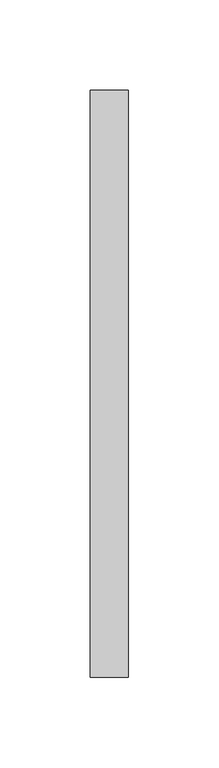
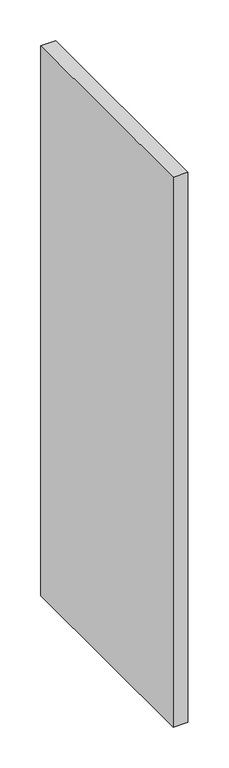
"""IFC4 building model written with IfcOpenShell, lengths in millimetres: duct fitting geometry, MEP_15.03 Injerto Conducte : Mínimo."""

import ifcopenshell
import ifcopenshell.guid

model = None  # the IFC model being written
_history = None  # IfcOwnerHistory: only IFC2X3 demands one
_inside = {}  # id of a spatial element -> (the spatial element, [elements in it])
_under = {}  # id of a project, library or spatial element -> (it, [spatial elements below it])
_declared = {}  # id of a project -> (the project, [libraries it declares])
_typed = {}  # id of a type object -> (the type object, [elements of that type])
_made_of = {}  # id of a material, layer set ... -> (it, [elements and type objects made of it])


def new_model(schema):
    """Start an empty IFC model of exactly this schema.

    Asked for "IFC4X3", IfcOpenShell would pick the latest addendum, in which some entities
    have other attributes; the version numbers below select the first issue.
    IFC2X3 requires an IfcOwnerHistory on every rooted entity: one is made here for all.
    """
    global model, _history
    if schema == "IFC4X3":
        model = ifcopenshell.file(schema_version=(4, 3, 0, 0))
    else:
        model = ifcopenshell.file(schema=schema)
    _inside.clear()
    _under.clear()
    _declared.clear()
    _typed.clear()
    _made_of.clear()
    _history = None
    if model.schema == "IFC2X3":
        org = make("IfcOrganization", Name="unknown")
        user = make(
            "IfcPersonAndOrganization",
            ThePerson=make("IfcPerson", FamilyName="unknown"),
            TheOrganization=org,
        )
        app = make(
            "IfcApplication",
            ApplicationDeveloper=org,
            Version="unknown",
            ApplicationFullName="unknown",
            ApplicationIdentifier="unknown",
        )
        _history = make(
            "IfcOwnerHistory",
            OwningUser=user,
            OwningApplication=app,
            ChangeAction="ADDED",
            CreationDate=0,
        )
    return model


def make(cls, **values):
    """One entity of the class cls with the attributes given. An attribute that is None is left unset."""
    return model.create_entity(
        cls, **{name: value for name, value in values.items() if value is not None}
    )


def rooted(cls, **values):
    """An entity with a GlobalId (a new one), such as an element, a storey or a relation."""
    return make(cls, GlobalId=ifcopenshell.guid.new(), OwnerHistory=_history, **values)


def si_unit(unit_type, name, prefix=None):
    """IfcSIUnit, for example si_unit("LENGTHUNIT", "METRE", prefix="MILLI")."""
    return make("IfcSIUnit", UnitType=unit_type, Prefix=prefix, Name=name)


def assignment(units):
    """IfcUnitAssignment: the units of a project."""
    return None if units is None else make("IfcUnitAssignment", Units=units)


def point(xyz):
    """IfcCartesianPoint."""
    return None if xyz is None else make("IfcCartesianPoint", Coordinates=xyz)


def direction(xyz):
    """IfcDirection."""
    return None if xyz is None else make("IfcDirection", DirectionRatios=xyz)


def frame(location, z_axis=None, x_axis=None):
    """IfcAxis2Placement3D, a coordinate frame: its origin and axes. An axis left out is left unset."""
    return make(
        "IfcAxis2Placement3D",
        Location=point(location),
        Axis=direction(z_axis),
        RefDirection=direction(x_axis),
    )


def origin():
    """The frame at (0, 0, 0) with its axes left unset."""
    return frame((0.0, 0.0, 0.0))


def place(relative_to, where):
    """IfcLocalPlacement: puts the frame where relative to a parent placement (None: the world)."""
    return make(
        "IfcLocalPlacement", PlacementRelTo=relative_to, RelativePlacement=where
    )


def context(
    kind, dimensions, precision=None, world=None, true_north=None, identifier=None
):
    """IfcGeometricRepresentationContext, for example the 3D "Model" context."""
    return make(
        "IfcGeometricRepresentationContext",
        ContextIdentifier=identifier,
        ContextType=kind,
        CoordinateSpaceDimension=dimensions,
        Precision=precision,
        WorldCoordinateSystem=world,
        TrueNorth=true_north,
    )


def project(units=None, contexts=None):
    """IfcProject with its units and contexts."""
    return rooted(
        "IfcProject",
        Name="project",
        RepresentationContexts=contexts,
        UnitsInContext=assignment(units),
    )


def spatial(cls, under=None, at=None, **own):
    """A site, building, storey or space (cls), placed at a placement, below another one or the project."""
    s = rooted(cls, ObjectPlacement=at, **own)
    if under is not None:
        _under.setdefault(under.id(), (under, []))[1].append(s)
    return s


def polyline(points):
    """IfcPolyline through the points."""
    return make("IfcPolyline", Points=[point(p) for p in points])


def outline(outer, holes=None, kind="AREA"):
    """IfcArbitraryClosedProfileDef: a profile drawn as a closed curve; with holes, ...WithVoids."""
    if holes is None:
        return make("IfcArbitraryClosedProfileDef", ProfileType=kind, OuterCurve=outer)
    return make(
        "IfcArbitraryProfileDefWithVoids",
        ProfileType=kind,
        OuterCurve=outer,
        InnerCurves=holes,
    )


def extrude(swept, where, along, depth):
    """IfcExtrudedAreaSolid: the profile swept, set in the frame where, extruded along a direction by depth."""
    return make(
        "IfcExtrudedAreaSolid",
        SweptArea=swept,
        Position=where,
        ExtrudedDirection=direction(along),
        Depth=depth,
    )


def shape(context_of_items, identifier, shape_type, items):
    """IfcShapeRepresentation: the items that make up one representation, for example the "Body"."""
    return make(
        "IfcShapeRepresentation",
        ContextOfItems=context_of_items,
        RepresentationIdentifier=identifier,
        RepresentationType=shape_type,
        Items=items,
    )


def source(mapping_origin, context_of_items, identifier, shape_type, items):
    """IfcRepresentationMap: a shape defined once, which mapped items show again and again."""
    return make(
        "IfcRepresentationMap",
        MappingOrigin=mapping_origin,
        MappedRepresentation=shape(context_of_items, identifier, shape_type, items),
    )


def transform(
    local_origin,
    x_axis=None,
    y_axis=None,
    z_axis=None,
    scale=None,
    scale2=None,
    scale3=None,
    uniform=True,
):
    """IfcCartesianTransformationOperator3D, or its non-uniform kind. x_axis, y_axis, z_axis: its Axis1, 2, 3."""
    if uniform:
        return make(
            "IfcCartesianTransformationOperator3D",
            Axis1=direction(x_axis),
            Axis2=direction(y_axis),
            LocalOrigin=point(local_origin),
            Scale=scale,
            Axis3=direction(z_axis),
        )
    return make(
        "IfcCartesianTransformationOperator3DnonUniform",
        Axis1=direction(x_axis),
        Axis2=direction(y_axis),
        LocalOrigin=point(local_origin),
        Scale=scale,
        Axis3=direction(z_axis),
        Scale2=scale2,
        Scale3=scale3,
    )


def mapped(mapping_source, mapping_target):
    """IfcMappedItem: shows the shape of a source again, moved by a transform."""
    return make(
        "IfcMappedItem", MappingSource=mapping_source, MappingTarget=mapping_target
    )


def made_of(thing, what):
    """Note that an element or type object is made of a material, layer set ...; save() writes the relation."""
    if what is not None:
        _made_of.setdefault(what.id(), (what, []))[1].append(thing)
    return thing


def element(
    cls,
    number,
    at=None,
    inside=None,
    cuts=None,
    type_object=None,
    material=None,
    context=None,
    identifier="Body",
    shape_type=None,
    held_by="IfcProductDefinitionShape",
    body=None,
    shapes=None,
    **own,
):
    """One element of the class cls, such as IfcWall. Its Tag is "e" and its number.

    at: its placement. inside: the storey or other place that contains it. cuts: it is an
    opening in that element (IfcRelVoidsElement). A single representation is given by context,
    identifier, shape_type and body (its items); several are given by shapes. held_by: the class
    of the entity that holds the representations. save() writes the other relations.
    """
    e = rooted(cls, Tag="e%d" % number, ObjectPlacement=at, **own)
    if body is not None:
        shapes = [shape(context, identifier, shape_type, body)]
    if shapes is not None:
        e.Representation = make(held_by, Representations=shapes)
    if inside is not None:
        _inside.setdefault(inside.id(), (inside, []))[1].append(e)
    if cuts is not None:
        rooted(
            "IfcRelVoidsElement", RelatingBuildingElement=cuts, RelatedOpeningElement=e
        )
    if type_object is not None:
        _typed.setdefault(type_object.id(), (type_object, []))[1].append(e)
    return made_of(e, material)


def aggregate(whole, parts):
    """IfcRelAggregates: a whole, such as a stair, and the parts it consists of."""
    return rooted("IfcRelAggregates", RelatingObject=whole, RelatedObjects=parts)


def save(model, path):
    """Write the relations noted so far, then the file.

    IfcRelAggregates (storeys below a building ...), IfcRelContainedInSpatialStructure (elements
    in a storey), IfcRelDefinesByType, IfcRelAssociatesMaterial and IfcRelDeclares: one each for
    every whole, place, type object, material and project.
    """
    for whole, parts in _under.values():
        aggregate(whole, parts)
    for where, things in _inside.values():
        rooted(
            "IfcRelContainedInSpatialStructure",
            RelatedElements=things,
            RelatingStructure=where,
        )
    for kind, things in _typed.values():
        rooted("IfcRelDefinesByType", RelatedObjects=things, RelatingType=kind)
    for what, things in _made_of.values():
        rooted("IfcRelAssociatesMaterial", RelatedObjects=things, RelatingMaterial=what)
    for by, libraries in _declared.values():
        rooted("IfcRelDeclares", RelatingContext=by, RelatedDefinitions=libraries)
    model.write(path)


def duct_fitting_2a60c368(model_context):
    return source(origin(), model_context, "Body", "SweptSolid", [
        extrude(outline(polyline([(-6.096, -162.5), (-6.096, 162.5), (15.0, 162.5), (15.0, -162.5), (-6.096, -162.5)])), frame((0.0, 0.0, -412.5), z_axis=(0.0, 0.0, 1.0), x_axis=(1.0, 0.0, 0.0)), (0.0, 0.0, 1.0), 825.0),
    ])


if __name__ == "__main__":
    model = new_model("IFC4")
    model_context = context("Model", 3, world=origin())
    ifc_project = project(units=[si_unit("LENGTHUNIT", "METRE", prefix="MILLI")], contexts=[model_context])
    site = spatial("IfcSite", under=ifc_project)
    building = spatial("IfcBuilding", under=site)
    placement = place(None, origin())
    duct_fitting_shape = duct_fitting_2a60c368(model_context)
    element("IfcDuctFitting", 1, ObjectType="MEP_15.03 Injerto Conducte : Mínimo", at=placement, inside=building, context=model_context, shape_type="MappedRepresentation", body=[
        mapped(duct_fitting_shape, transform((0.0, 0.0, 0.0), x_axis=(1.0, 0.0, 0.0), y_axis=(0.0, 1.0, 0.0), z_axis=(0.0, 0.0, 1.0))),
    ])
    save(model, "model.ifc")
